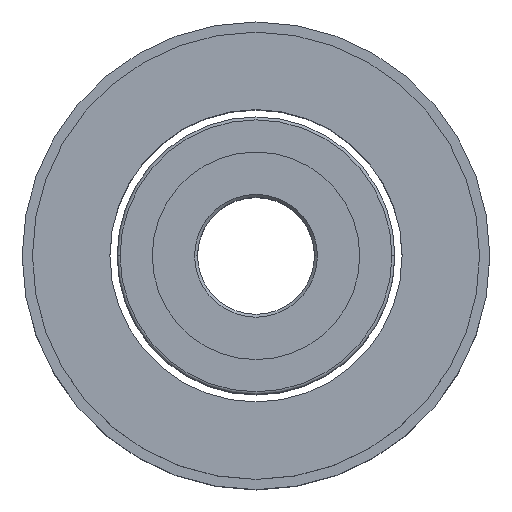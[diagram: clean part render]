
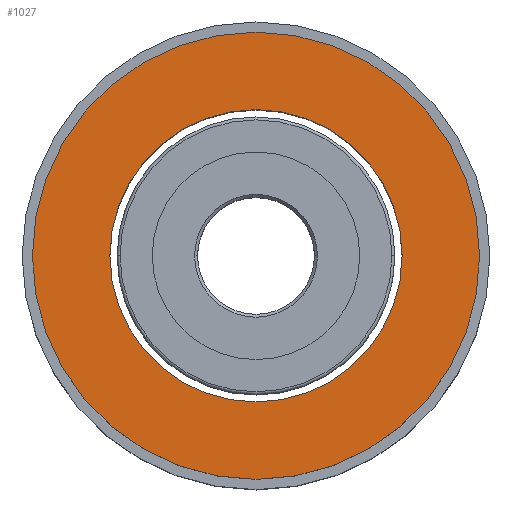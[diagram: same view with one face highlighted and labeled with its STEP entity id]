
A CAD part, top view. The second image highlights one B-rep face of the part: STEP entity #1027.
In plain terms, the highlighted planar face has unit normal (0, 0, 1).
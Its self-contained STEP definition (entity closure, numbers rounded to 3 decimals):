
#9 = VERTEX_POINT ( 'NONE', #1026 ) ;
#25 = CIRCLE ( 'NONE', #362, 5. ) ;
#29 = CARTESIAN_POINT ( 'NONE',  ( 0., 0., 0. ) ) ;
#114 = DIRECTION ( 'NONE',  ( 0., 0., -1. ) ) ;
#123 = ORIENTED_EDGE ( 'NONE', *, *, #572, .T. ) ;
#137 = CIRCLE ( 'NONE', #596, 7.65 ) ;
#143 = EDGE_CURVE ( 'NONE', #9, #1031, #137, .T. ) ;
#186 = PLANE ( 'NONE',  #1090 ) ;
#274 = FACE_BOUND ( 'NONE', #677, .T. ) ;
#278 = VERTEX_POINT ( 'NONE', #1059 ) ;
#279 = CARTESIAN_POINT ( 'NONE',  ( -7.65, 0., 0. ) ) ;
#283 = DIRECTION ( 'NONE',  ( 0., 0., -1. ) ) ;
#291 = AXIS2_PLACEMENT_3D ( 'NONE', #649, #550, #1175 ) ;
#352 = ORIENTED_EDGE ( 'NONE', *, *, #1034, .F. ) ;
#362 = AXIS2_PLACEMENT_3D ( 'NONE', #29, #114, #378 ) ;
#378 = DIRECTION ( 'NONE',  ( -1., 0., 0. ) ) ;
#385 = CIRCLE ( 'NONE', #291, 7.65 ) ;
#428 = CARTESIAN_POINT ( 'NONE',  ( -5., 0., 0. ) ) ;
#429 = VERTEX_POINT ( 'NONE', #428 ) ;
#458 = DIRECTION ( 'NONE',  ( -1., 0., 0. ) ) ;
#550 = DIRECTION ( 'NONE',  ( 0., 0., -1. ) ) ;
#553 = CARTESIAN_POINT ( 'NONE',  ( 0., 7.65, 0. ) ) ;
#560 = CARTESIAN_POINT ( 'NONE',  ( 0., 0., 0. ) ) ;
#572 = EDGE_CURVE ( 'NONE', #429, #278, #25, .T. ) ;
#592 = DIRECTION ( 'NONE',  ( 0., 0., -1. ) ) ;
#596 = AXIS2_PLACEMENT_3D ( 'NONE', #1030, #283, #458 ) ;
#597 = EDGE_CURVE ( 'NONE', #278, #429, #1144, .T. ) ;
#649 = CARTESIAN_POINT ( 'NONE',  ( 0., 0., 0. ) ) ;
#677 = EDGE_LOOP ( 'NONE', ( #123, #719 ) ) ;
#690 = EDGE_LOOP ( 'NONE', ( #352, #985 ) ) ;
#719 = ORIENTED_EDGE ( 'NONE', *, *, #597, .T. ) ;
#734 = DIRECTION ( 'NONE',  ( 0., 0., 1. ) ) ;
#861 = AXIS2_PLACEMENT_3D ( 'NONE', #560, #592, #945 ) ;
#945 = DIRECTION ( 'NONE',  ( -1., 0., 0. ) ) ;
#985 = ORIENTED_EDGE ( 'NONE', *, *, #143, .F. ) ;
#1005 = FACE_OUTER_BOUND ( 'NONE', #690, .T. ) ;
#1026 = CARTESIAN_POINT ( 'NONE',  ( 7.65, 0., 0. ) ) ;
#1027 = ADVANCED_FACE ( 'NONE', ( #274, #1005 ), #186, .T. ) ;
#1030 = CARTESIAN_POINT ( 'NONE',  ( 0., 0., 0. ) ) ;
#1031 = VERTEX_POINT ( 'NONE', #279 ) ;
#1034 = EDGE_CURVE ( 'NONE', #1031, #9, #385, .T. ) ;
#1059 = CARTESIAN_POINT ( 'NONE',  ( 5., 0., 0. ) ) ;
#1090 = AXIS2_PLACEMENT_3D ( 'NONE', #553, #734, #1101 ) ;
#1101 = DIRECTION ( 'NONE',  ( 1., 0., 0. ) ) ;
#1144 = CIRCLE ( 'NONE', #861, 5. ) ;
#1175 = DIRECTION ( 'NONE',  ( -1., 0., 0. ) ) ;
